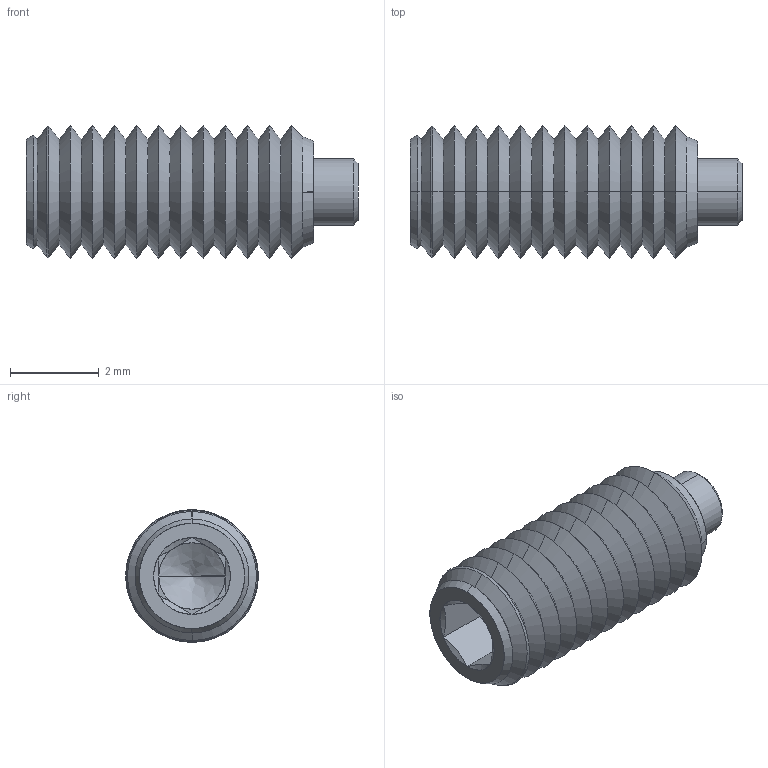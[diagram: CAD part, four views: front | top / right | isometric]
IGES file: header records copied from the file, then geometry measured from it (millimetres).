
Start section: SolidWorks IGES file using analytic representation for surfaces
Global section: file name: C:\Users\IanO\Desktop\P0120_v2_230406\P0120_v2_20230506_IGES\P0120.030-006.igs; native system: SolidWorks 2019; preprocessor: SolidWorks 2019; author: IanO; date: 230406.142152; units: millimetre
Bounding box: 7.5 x 3 x 3 mm (x, y, z)
Surface area: 119 mm2 (no closed solid volume)
Topology: 0 solids, 0 shells, 87 faces, 530 edges, 528 vertices
Faces by surface type: revolution 70, bspline 17
